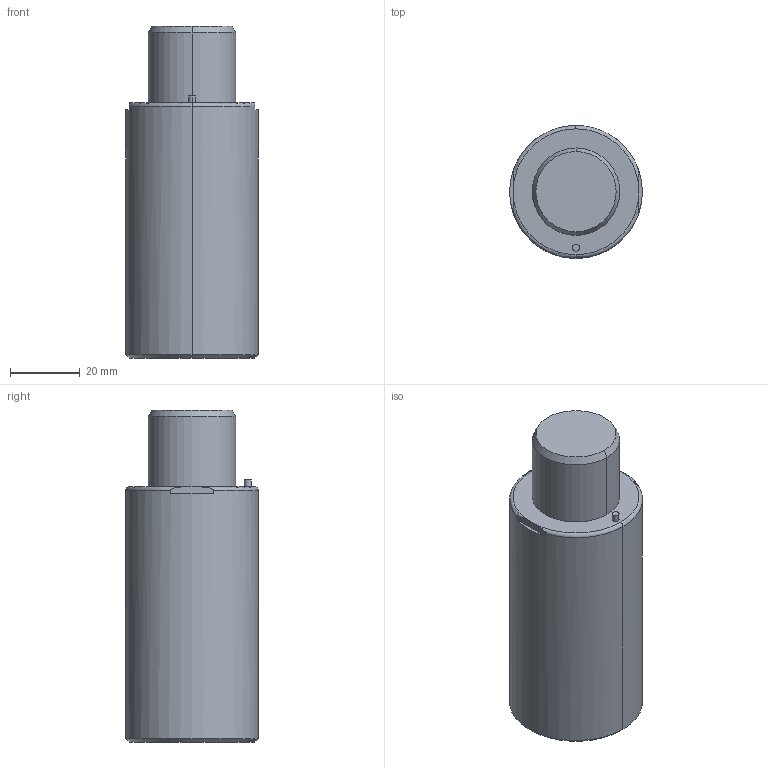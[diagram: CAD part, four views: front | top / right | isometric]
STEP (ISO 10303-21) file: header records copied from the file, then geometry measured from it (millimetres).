
FILE_DESCRIPTION(/* description */ (''),/* implementation_level */ '2;1');
FILE_NAME(/* name */ '3d_gsx38-20_03976_r00.stp',/* time_stamp */ '2011-01-10T14:15:13+09:00',/* author */ ('MISUMI'),/* organization */ (''),/* preprocessor_version */ 'ST-DEVELOPER v11',/* originating_system */ 'UGS - NX 5.0',/* authorisation */ '');
FILE_SCHEMA (('CONFIG_CONTROL_DESIGN'));
Length unit declared in the file: millimetre
Products named in the file (1): 3d_gsx38-20_03976_r00
Bounding box: 38 x 38 x 95 mm (x, y, z)
Volume: 91526.6 mm3; surface area: 13831.6 mm2
Topology: 1 solids, 1 shells, 59 faces, 128 edges, 76 vertices
Faces by surface type: cylinder 28, plane 15, cone 12, torus 4
Entity records: 1718 total; most frequent: CARTESIAN_POINT 328, DIRECTION 306, ORIENTED_EDGE 240, AXIS2_PLACEMENT_3D 130, EDGE_CURVE 120, VERTEX_POINT 76, EDGE_LOOP 72, CIRCLE 70
